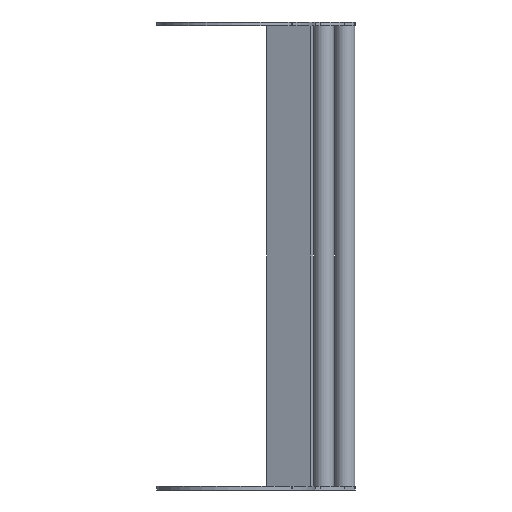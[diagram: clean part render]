
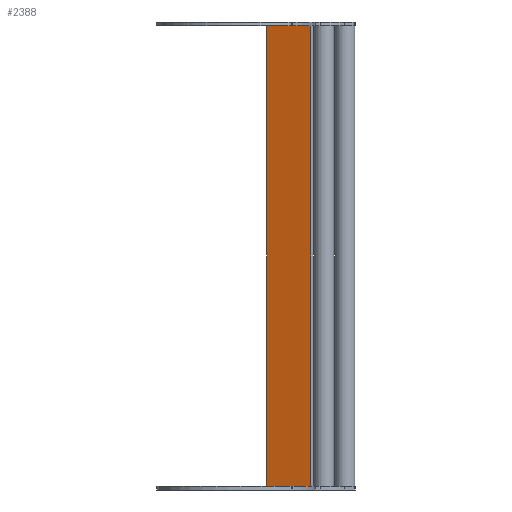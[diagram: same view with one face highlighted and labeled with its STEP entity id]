
A CAD part, front view. The second image highlights one B-rep face of the part: STEP entity #2388.
In plain terms, the highlighted planar face has unit normal (-0.342, -0.94, 0).
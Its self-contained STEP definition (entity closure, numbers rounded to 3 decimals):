
#59 = VERTEX_POINT ( 'NONE', #2487 ) ;
#207 = ORIENTED_EDGE ( 'NONE', *, *, #1783, .T. ) ;
#269 = DIRECTION ( 'NONE',  ( -0.94, 0.342, 0. ) ) ;
#689 = CARTESIAN_POINT ( 'NONE',  ( 56.745, 61.65, 0. ) ) ;
#976 = VERTEX_POINT ( 'NONE', #4620 ) ;
#1412 = DIRECTION ( 'NONE',  ( 0., 0., 1. ) ) ;
#1516 = DIRECTION ( 'NONE',  ( -0.94, 0.342, 0. ) ) ;
#1707 = ORIENTED_EDGE ( 'NONE', *, *, #2843, .F. ) ;
#1764 = CARTESIAN_POINT ( 'NONE',  ( 23.4, 73.787, -348. ) ) ;
#1775 = EDGE_LOOP ( 'NONE', ( #207, #1707, #3944, #3110 ) ) ;
#1783 = EDGE_CURVE ( 'NONE', #4242, #59, #2948, .T. ) ;
#1979 = CARTESIAN_POINT ( 'NONE',  ( 23.4, 73.787, -348. ) ) ;
#2022 = DIRECTION ( 'NONE',  ( 0.342, 0.94, 0. ) ) ;
#2210 = CARTESIAN_POINT ( 'NONE',  ( 56.745, 61.65, -348. ) ) ;
#2232 = CARTESIAN_POINT ( 'NONE',  ( 56.745, 61.65, -348. ) ) ;
#2259 = VECTOR ( 'NONE', #269, 1000. ) ;
#2276 = AXIS2_PLACEMENT_3D ( 'NONE', #3415, #2022, #5254 ) ;
#2345 = VERTEX_POINT ( 'NONE', #1764 ) ;
#2388 = ADVANCED_FACE ( 'NONE', ( #4727 ), #2599, .F. ) ;
#2487 = CARTESIAN_POINT ( 'NONE',  ( 23.4, 73.787, 0. ) ) ;
#2511 = VECTOR ( 'NONE', #1516, 1000. ) ;
#2547 = EDGE_CURVE ( 'NONE', #976, #2345, #4148, .T. ) ;
#2599 = PLANE ( 'NONE',  #2276 ) ;
#2843 = EDGE_CURVE ( 'NONE', #2345, #59, #2867, .T. ) ;
#2867 = LINE ( 'NONE', #1979, #4897 ) ;
#2948 = LINE ( 'NONE', #3913, #2511 ) ;
#3110 = ORIENTED_EDGE ( 'NONE', *, *, #4580, .T. ) ;
#3415 = CARTESIAN_POINT ( 'NONE',  ( 56.745, 61.65, -348. ) ) ;
#3613 = DIRECTION ( 'NONE',  ( 0., 0., 1. ) ) ;
#3650 = LINE ( 'NONE', #2210, #4091 ) ;
#3913 = CARTESIAN_POINT ( 'NONE',  ( 56.745, 61.65, 0. ) ) ;
#3944 = ORIENTED_EDGE ( 'NONE', *, *, #2547, .F. ) ;
#4091 = VECTOR ( 'NONE', #1412, 1000. ) ;
#4148 = LINE ( 'NONE', #2232, #2259 ) ;
#4242 = VERTEX_POINT ( 'NONE', #689 ) ;
#4580 = EDGE_CURVE ( 'NONE', #976, #4242, #3650, .T. ) ;
#4620 = CARTESIAN_POINT ( 'NONE',  ( 56.745, 61.65, -348. ) ) ;
#4727 = FACE_OUTER_BOUND ( 'NONE', #1775, .T. ) ;
#4897 = VECTOR ( 'NONE', #3613, 1000. ) ;
#5254 = DIRECTION ( 'NONE',  ( -0.94, 0.342, 0. ) ) ;
